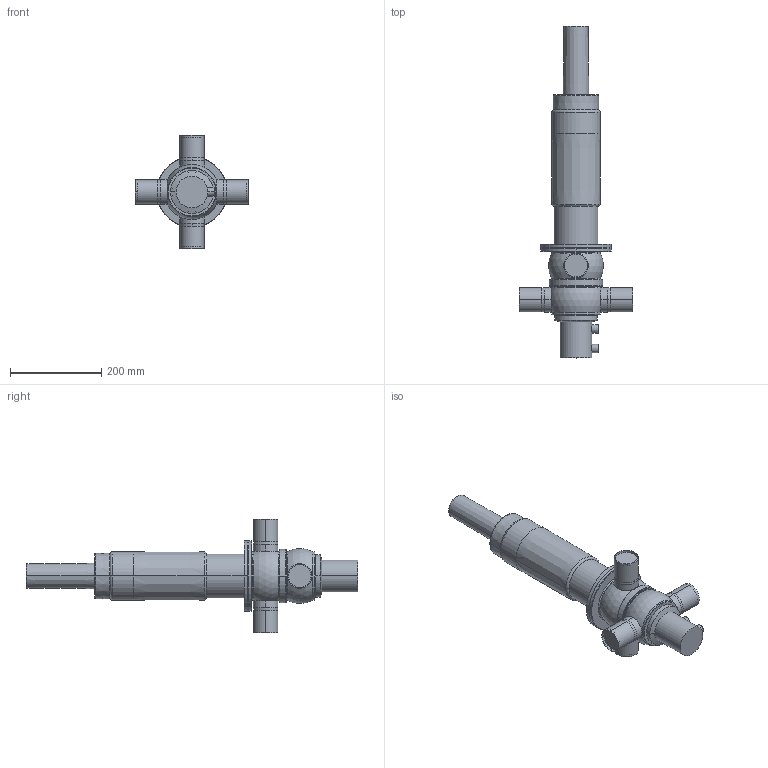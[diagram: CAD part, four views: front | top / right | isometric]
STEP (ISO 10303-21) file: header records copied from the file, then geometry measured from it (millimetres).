
FILE_DESCRIPTION(('Creo Elements/Direct Modeling STEP Export'),'2;1');
FILE_NAME('D44SL-50_prox..stp','2019-09-04T 9:48:28',(''),(''),'PTC Creo Elements/Direct Modeling STEP processor for AP214 (Solid Model)','PTC Creo Elements/Direct Modeling 19.0B 21-Mar-2015 (C) Parametric Technology GmbH','');
FILE_SCHEMA(('AUTOMOTIVE_DESIGN { 1 0 10303 214 1 1 1 1 }'));
Length unit declared in the file: millimetre
Products named in the file (5): D4_Prox._holder.; actuator_D4SL-100_yoke; drain_pipe-62; housing_D44-50; D44SL-50_CU4
Assembly tree (4 placements, depth 2):
  D44SL-50_CU4
    housing_D44-50
    drain_pipe-62
    actuator_D4SL-100_yoke
    D4_Prox._holder.
Bounding box: 250 x 729.35 x 250 mm (x, y, z)
Volume: 5914349.4 mm3; surface area: 381131.6 mm2
Topology: 4 solids, 4 shells, 144 faces, 311 edges, 189 vertices
Faces by surface type: cylinder 58, torus 32, plane 28, cone 22, sphere 4
Entity records: 4494 total; most frequent: CARTESIAN_POINT 1485, ORIENTED_EDGE 622, DIRECTION 606, EDGE_CURVE 311, AXIS2_PLACEMENT_3D 263, VERTEX_POINT 189, EDGE_LOOP 158, FACE_OUTER_BOUND 144
